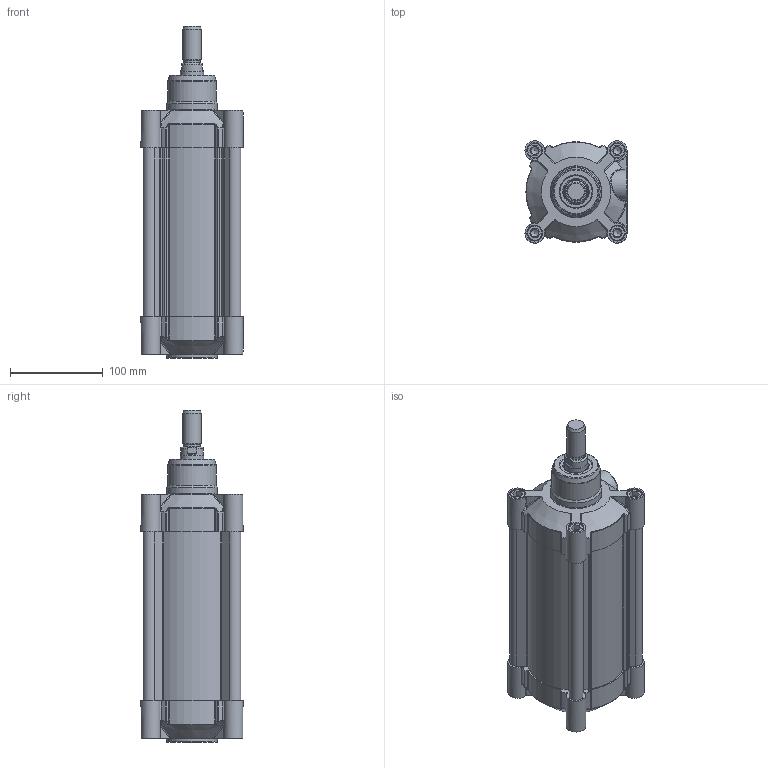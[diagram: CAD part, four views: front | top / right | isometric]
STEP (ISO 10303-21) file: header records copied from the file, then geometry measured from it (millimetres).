
FILE_DESCRIPTION(/* description */ (''),/* implementation_level */ '2;1');
FILE_NAME(/* name */ 'T:\Archivio Inventor\- 00 NUOVI STP PER SITO CON STELO CHE SI MUOVE\SERIE H - U\SERIE HDM\HDM100 - TUBO NUOVO\HDM100.125.GS.M.stp',/* time_stamp */ '2018-08-02T09:30:51+02:00',/* author */ ('carlo.corazza'),/* organization */ (''),/* preprocessor_version */ 'ST-DEVELOPER v16.5',/* originating_system */ 'Autodesk Inventor 2017',/* authorisation */ '');
FILE_SCHEMA (('AUTOMOTIVE_DESIGN { 1 0 10303 214 3 1 1 }'));
Length unit declared in the file: millimetre
Products named in the file (5): HDM100.125.GS.M; TP; TA; STELO-125; CORPO-125
Assembly tree (4 placements, depth 2):
  HDM100.125.GS.M
    TP
    TA
    STELO-125
    CORPO-125
Bounding box: 110 x 110 x 358 mm (x, y, z)
Volume: 1031146.1 mm3; surface area: 401962.4 mm2
Topology: 4 solids, 29 shells, 1355 faces, 3135 edges, 1912 vertices
Faces by surface type: plane 408, cylinder 313, bspline 270, torus 126, cone 122, sphere 116
Full cylindrical faces by diameter (mm): 5 x2, 5.9 x2, 6.5 x2, 7.25 x2, 8.376 x8, 9.4 x4, 10 x8, 10.3 x8, 11.8 x4, 11.9 x2, 12 x4, 16 x9, 16.3 x8, 17 x2, 17.5 x1, 18.631 x2, 20 x1, 24.5 x1, 25 x1, 25.8 x1, 25.962 x1, 30 x1, 31.5 x2, 35 x3, 52 x1, 55 x2, 100 x1
Entity records: 43668 total; most frequent: CARTESIAN_POINT 13702, ORIENTED_EDGE 5710, DIRECTION 5644, EDGE_CURVE 2855, AXIS2_PLACEMENT_3D 2293, VERTEX_POINT 1857, EDGE_LOOP 1690, STYLED_ITEM 1359
